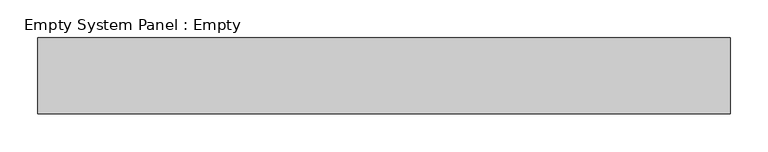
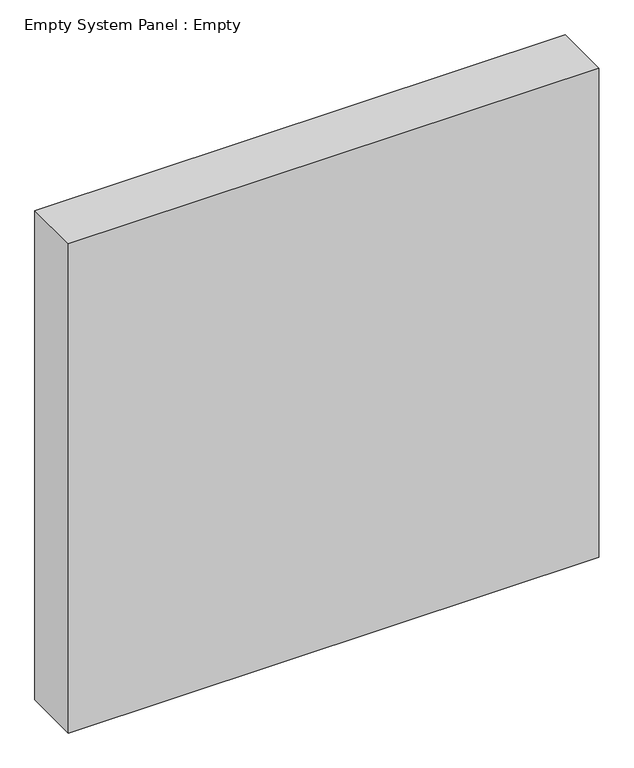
"""IFC4 building model written with IfcOpenShell, lengths in millimetres: plate geometry, Empty System Panel : Empty."""

from ifc_helpers import new_model, si_unit, origin, origin_with_axes, place, context, project, spatial, polyline, outline, extrude, source, transform, mapped, element, save


def empty_system_panel_empty_70027ae5(model_context):
    return source(origin(), model_context, "Body", "SweptSolid", [
        extrude(outline(polyline([(456.25, -50.0), (-456.25, -50.0), (-456.25, 50.0), (456.25, 50.0), (456.25, -50.0)])), origin_with_axes(), (0.0, 0.0, 1.0), 890.0),
    ])


if __name__ == "__main__":
    model = new_model("IFC4")
    model_context = context("Model", 3, world=origin())
    ifc_project = project(units=[si_unit("LENGTHUNIT", "METRE", prefix="MILLI")], contexts=[model_context])
    site = spatial("IfcSite", under=ifc_project)
    building = spatial("IfcBuilding", under=site)
    placement = place(None, origin())
    empty_system_panel_empty_shape = empty_system_panel_empty_70027ae5(model_context)
    element("IfcPlate", 1, ObjectType="Empty System Panel : Empty", at=placement, inside=building, context=model_context, shape_type="MappedRepresentation", body=[
        mapped(empty_system_panel_empty_shape, transform((0.0, 0.0, 0.0), x_axis=(1.0, 0.0, 0.0), y_axis=(0.0, 1.0, 0.0), z_axis=(0.0, 0.0, 1.0))),
    ])
    save(model, "model.ifc")
